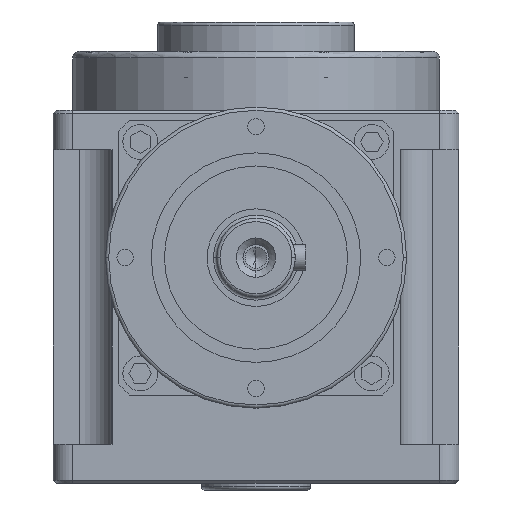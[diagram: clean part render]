
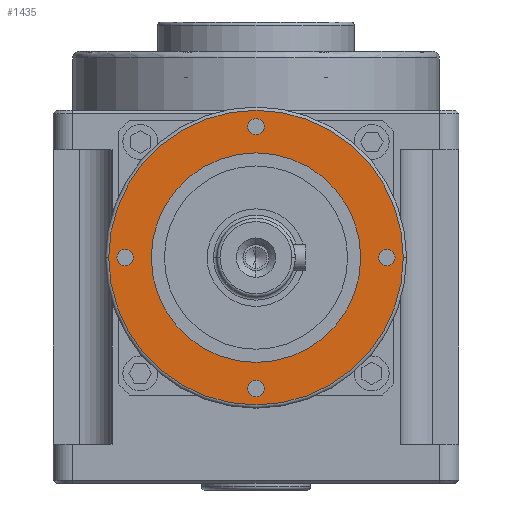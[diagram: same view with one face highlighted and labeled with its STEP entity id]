
A CAD part, front view. The second image highlights one B-rep face of the part: STEP entity #1435.
In plain terms, the highlighted planar face has unit normal (0, -1, 0).
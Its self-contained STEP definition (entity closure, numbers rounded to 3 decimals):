
#103 = CIRCLE ( 'NONE', #6111, 16. ) ;
#191 = DIRECTION ( 'NONE',  ( 0., -1., 0. ) ) ;
#296 = EDGE_CURVE ( 'NONE', #5140, #360, #2653, .T. ) ;
#305 = VERTEX_POINT ( 'NONE', #8712 ) ;
#360 = VERTEX_POINT ( 'NONE', #5030 ) ;
#387 = ORIENTED_EDGE ( 'NONE', *, *, #5831, .T. ) ;
#451 = DIRECTION ( 'NONE',  ( 0., -1., 0. ) ) ;
#474 = AXIS2_PLACEMENT_3D ( 'NONE', #10042, #191, #4601 ) ;
#531 = AXIS2_PLACEMENT_3D ( 'NONE', #827, #11435, #8782 ) ;
#572 = ORIENTED_EDGE ( 'NONE', *, *, #6439, .F. ) ;
#782 = AXIS2_PLACEMENT_3D ( 'NONE', #9782, #7050, #1640 ) ;
#827 = CARTESIAN_POINT ( 'NONE',  ( 0., -60.5, 20. ) ) ;
#832 = DIRECTION ( 'NONE',  ( 0., -1., 0. ) ) ;
#933 = AXIS2_PLACEMENT_3D ( 'NONE', #8526, #451, #2156 ) ;
#1024 = PLANE ( 'NONE',  #474 ) ;
#1068 = VERTEX_POINT ( 'NONE', #5046 ) ;
#1089 = AXIS2_PLACEMENT_3D ( 'NONE', #5110, #8620, #10435 ) ;
#1264 = DIRECTION ( 'NONE',  ( 0., -1., 0. ) ) ;
#1435 = ADVANCED_FACE ( 'NONE', ( #3545, #2829, #8266, #5545, #5372, #2660 ), #1024, .T. ) ;
#1510 = DIRECTION ( 'NONE',  ( 0., -1., 0. ) ) ;
#1640 = DIRECTION ( 'NONE',  ( 1., 0., 0. ) ) ;
#1699 = VERTEX_POINT ( 'NONE', #11094 ) ;
#1711 = VERTEX_POINT ( 'NONE', #2122 ) ;
#1748 = CARTESIAN_POINT ( 'NONE',  ( -16., -60.5, 0. ) ) ;
#1751 = VERTEX_POINT ( 'NONE', #7845 ) ;
#1953 = AXIS2_PLACEMENT_3D ( 'NONE', #6820, #2351, #9678 ) ;
#2067 = EDGE_CURVE ( 'NONE', #1699, #5295, #4296, .T. ) ;
#2122 = CARTESIAN_POINT ( 'NONE',  ( -22.5, -60.5, 0. ) ) ;
#2129 = EDGE_CURVE ( 'NONE', #5295, #1699, #5037, .T. ) ;
#2156 = DIRECTION ( 'NONE',  ( 1., 0., 0. ) ) ;
#2351 = DIRECTION ( 'NONE',  ( 0., -1., 0. ) ) ;
#2653 = CIRCLE ( 'NONE', #782, 1.25 ) ;
#2660 = FACE_OUTER_BOUND ( 'NONE', #3109, .T. ) ;
#2829 = FACE_BOUND ( 'NONE', #11245, .T. ) ;
#2866 = DIRECTION ( 'NONE',  ( 0., -1., 0. ) ) ;
#3059 = EDGE_LOOP ( 'NONE', ( #572, #9086 ) ) ;
#3109 = EDGE_LOOP ( 'NONE', ( #8255, #387 ) ) ;
#3147 = ORIENTED_EDGE ( 'NONE', *, *, #2129, .F. ) ;
#3171 = CARTESIAN_POINT ( 'NONE',  ( 18.75, -60.5, 0. ) ) ;
#3328 = CIRCLE ( 'NONE', #1089, 22.5 ) ;
#3365 = CARTESIAN_POINT ( 'NONE',  ( -20., -60.5, 0. ) ) ;
#3518 = EDGE_CURVE ( 'NONE', #4050, #1751, #11065, .T. ) ;
#3545 = FACE_BOUND ( 'NONE', #4349, .T. ) ;
#3605 = DIRECTION ( 'NONE',  ( 1., 0., 0. ) ) ;
#3634 = CIRCLE ( 'NONE', #1953, 22.5 ) ;
#3802 = CARTESIAN_POINT ( 'NONE',  ( 0., -60.5, 20. ) ) ;
#3897 = CARTESIAN_POINT ( 'NONE',  ( -21.25, -60.5, 0. ) ) ;
#4050 = VERTEX_POINT ( 'NONE', #3897 ) ;
#4296 = CIRCLE ( 'NONE', #933, 1.25 ) ;
#4349 = EDGE_LOOP ( 'NONE', ( #9964, #9446 ) ) ;
#4585 = VERTEX_POINT ( 'NONE', #8323 ) ;
#4601 = DIRECTION ( 'NONE',  ( 1., 0., 0. ) ) ;
#4833 = DIRECTION ( 'NONE',  ( 1., 0., 0. ) ) ;
#5030 = CARTESIAN_POINT ( 'NONE',  ( 21.25, -60.5, 0. ) ) ;
#5037 = CIRCLE ( 'NONE', #11273, 1.25 ) ;
#5046 = CARTESIAN_POINT ( 'NONE',  ( -1.25, -60.5, 20. ) ) ;
#5077 = DIRECTION ( 'NONE',  ( 1., 0., 0. ) ) ;
#5110 = CARTESIAN_POINT ( 'NONE',  ( 0., -60.5, 0. ) ) ;
#5140 = VERTEX_POINT ( 'NONE', #3171 ) ;
#5231 = EDGE_CURVE ( 'NONE', #8120, #1711, #3634, .T. ) ;
#5253 = DIRECTION ( 'NONE',  ( 0., -1., 0. ) ) ;
#5269 = CARTESIAN_POINT ( 'NONE',  ( 22.5, -60.5, 0. ) ) ;
#5288 = DIRECTION ( 'NONE',  ( 1., 0., 0. ) ) ;
#5295 = VERTEX_POINT ( 'NONE', #9538 ) ;
#5372 = FACE_BOUND ( 'NONE', #10787, .T. ) ;
#5375 = CIRCLE ( 'NONE', #8205, 1.25 ) ;
#5545 = FACE_BOUND ( 'NONE', #3059, .T. ) ;
#5640 = DIRECTION ( 'NONE',  ( 1., 0., 0. ) ) ;
#5831 = EDGE_CURVE ( 'NONE', #1711, #8120, #3328, .T. ) ;
#6111 = AXIS2_PLACEMENT_3D ( 'NONE', #9345, #1264, #4833 ) ;
#6230 = EDGE_LOOP ( 'NONE', ( #7049, #7729 ) ) ;
#6271 = AXIS2_PLACEMENT_3D ( 'NONE', #3365, #5253, #8865 ) ;
#6330 = CARTESIAN_POINT ( 'NONE',  ( 0., -60.5, 0. ) ) ;
#6367 = ORIENTED_EDGE ( 'NONE', *, *, #9983, .F. ) ;
#6439 = EDGE_CURVE ( 'NONE', #305, #1068, #9204, .T. ) ;
#6820 = CARTESIAN_POINT ( 'NONE',  ( 0., -60.5, 0. ) ) ;
#7049 = ORIENTED_EDGE ( 'NONE', *, *, #8472, .F. ) ;
#7050 = DIRECTION ( 'NONE',  ( 0., -1., 0. ) ) ;
#7209 = DIRECTION ( 'NONE',  ( 0., -1., 0. ) ) ;
#7278 = CIRCLE ( 'NONE', #9179, 16. ) ;
#7473 = AXIS2_PLACEMENT_3D ( 'NONE', #8843, #832, #5288 ) ;
#7729 = ORIENTED_EDGE ( 'NONE', *, *, #3518, .F. ) ;
#7845 = CARTESIAN_POINT ( 'NONE',  ( -18.75, -60.5, 0. ) ) ;
#8120 = VERTEX_POINT ( 'NONE', #5269 ) ;
#8205 = AXIS2_PLACEMENT_3D ( 'NONE', #3802, #2866, #11016 ) ;
#8255 = ORIENTED_EDGE ( 'NONE', *, *, #5231, .T. ) ;
#8266 = FACE_BOUND ( 'NONE', #6230, .T. ) ;
#8323 = CARTESIAN_POINT ( 'NONE',  ( 16., -60.5, 0. ) ) ;
#8448 = ORIENTED_EDGE ( 'NONE', *, *, #2067, .F. ) ;
#8472 = EDGE_CURVE ( 'NONE', #1751, #4050, #10233, .T. ) ;
#8526 = CARTESIAN_POINT ( 'NONE',  ( 0., -60.5, -20. ) ) ;
#8620 = DIRECTION ( 'NONE',  ( 0., -1., 0. ) ) ;
#8712 = CARTESIAN_POINT ( 'NONE',  ( 1.25, -60.5, 20. ) ) ;
#8782 = DIRECTION ( 'NONE',  ( 1., 0., 0. ) ) ;
#8843 = CARTESIAN_POINT ( 'NONE',  ( -20., -60.5, 0. ) ) ;
#8865 = DIRECTION ( 'NONE',  ( 1., 0., 0. ) ) ;
#8930 = AXIS2_PLACEMENT_3D ( 'NONE', #10957, #10079, #5640 ) ;
#9038 = EDGE_CURVE ( 'NONE', #360, #5140, #10802, .T. ) ;
#9086 = ORIENTED_EDGE ( 'NONE', *, *, #10831, .F. ) ;
#9179 = AXIS2_PLACEMENT_3D ( 'NONE', #6330, #7209, #3605 ) ;
#9204 = CIRCLE ( 'NONE', #531, 1.25 ) ;
#9300 = VERTEX_POINT ( 'NONE', #1748 ) ;
#9345 = CARTESIAN_POINT ( 'NONE',  ( 0., -60.5, 0. ) ) ;
#9446 = ORIENTED_EDGE ( 'NONE', *, *, #296, .F. ) ;
#9538 = CARTESIAN_POINT ( 'NONE',  ( 1.25, -60.5, -20. ) ) ;
#9594 = CARTESIAN_POINT ( 'NONE',  ( 0., -60.5, -20. ) ) ;
#9678 = DIRECTION ( 'NONE',  ( 1., 0., 0. ) ) ;
#9782 = CARTESIAN_POINT ( 'NONE',  ( 20., -60.5, 0. ) ) ;
#9964 = ORIENTED_EDGE ( 'NONE', *, *, #9038, .F. ) ;
#9983 = EDGE_CURVE ( 'NONE', #4585, #9300, #103, .T. ) ;
#10042 = CARTESIAN_POINT ( 'NONE',  ( 0., -60.5, 0. ) ) ;
#10079 = DIRECTION ( 'NONE',  ( 0., -1., 0. ) ) ;
#10233 = CIRCLE ( 'NONE', #6271, 1.25 ) ;
#10286 = ORIENTED_EDGE ( 'NONE', *, *, #11610, .F. ) ;
#10435 = DIRECTION ( 'NONE',  ( 1., 0., 0. ) ) ;
#10787 = EDGE_LOOP ( 'NONE', ( #6367, #10286 ) ) ;
#10802 = CIRCLE ( 'NONE', #8930, 1.25 ) ;
#10831 = EDGE_CURVE ( 'NONE', #1068, #305, #5375, .T. ) ;
#10957 = CARTESIAN_POINT ( 'NONE',  ( 20., -60.5, 0. ) ) ;
#11016 = DIRECTION ( 'NONE',  ( 1., 0., 0. ) ) ;
#11065 = CIRCLE ( 'NONE', #7473, 1.25 ) ;
#11094 = CARTESIAN_POINT ( 'NONE',  ( -1.25, -60.5, -20. ) ) ;
#11245 = EDGE_LOOP ( 'NONE', ( #3147, #8448 ) ) ;
#11273 = AXIS2_PLACEMENT_3D ( 'NONE', #9594, #1510, #5077 ) ;
#11435 = DIRECTION ( 'NONE',  ( 0., -1., 0. ) ) ;
#11610 = EDGE_CURVE ( 'NONE', #9300, #4585, #7278, .T. ) ;
